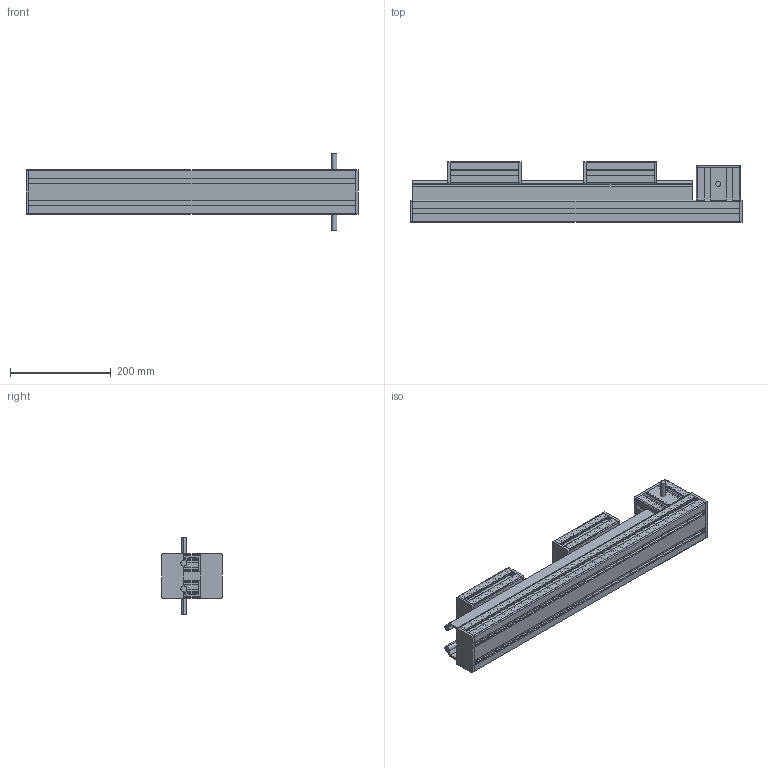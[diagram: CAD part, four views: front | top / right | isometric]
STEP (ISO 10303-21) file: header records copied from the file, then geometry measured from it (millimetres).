
FILE_DESCRIPTION (( 'STEP AP214' ), '1' );
FILE_NAME ('FGLA 660L.step', '2017-04-05T08:04:52', ( '' ), ( '' ), 'SwSTEP 2.0', 'SolidWorks 2015', '' );
FILE_SCHEMA (( 'AUTOMOTIVE_DESIGN' ));
Length unit declared in the file: millimetre
Products named in the file (1): FGLA 660L
Bounding box: 660 x 120 x 154 mm (x, y, z)
Volume: 1426238.8 mm3; surface area: 1164380.2 mm2
Topology: 14 solids, 14 shells, 1758 faces, 5190 edges, 3460 vertices
Faces by surface type: cylinder 936, plane 822
Entity records: 59477 total; most frequent: DIRECTION 10580, CARTESIAN_POINT 10409, ORIENTED_EDGE 10380, EDGE_CURVE 5190, AXIS2_PLACEMENT_3D 3631, VERTEX_POINT 3460, LINE 3318, VECTOR 3318
